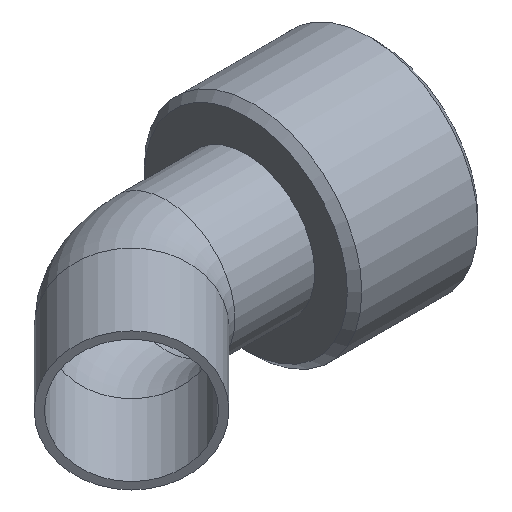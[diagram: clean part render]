
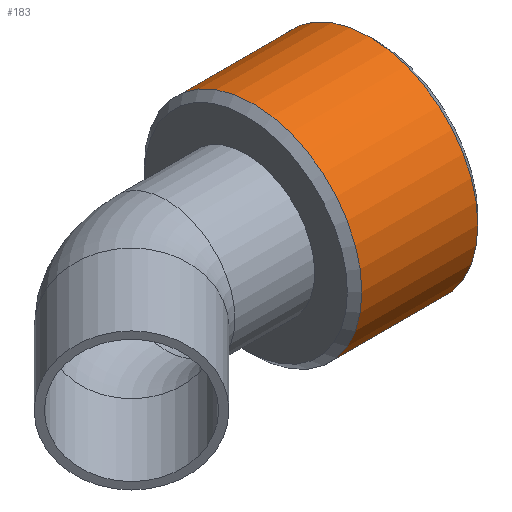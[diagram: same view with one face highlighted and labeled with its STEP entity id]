
A CAD part, isometric view. The second image highlights one B-rep face of the part: STEP entity #183.
In plain terms, the highlighted cylindrical face has radius 15 mm (diameter 30 mm), a full revolution.
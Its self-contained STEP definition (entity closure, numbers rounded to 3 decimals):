
#183 = ADVANCED_FACE( '', ( #246, #247 ), #248, .T. );
#246 = FACE_OUTER_BOUND( '', #345, .T. );
#247 = FACE_OUTER_BOUND( '', #346, .T. );
#248 = CYLINDRICAL_SURFACE( '', #347, 15. );
#345 = EDGE_LOOP( '', ( #471 ) );
#346 = EDGE_LOOP( '', ( #472 ) );
#347 = AXIS2_PLACEMENT_3D( '', #473, #474, #475 );
#471 = ORIENTED_EDGE( '', *, *, #581, .T. );
#472 = ORIENTED_EDGE( '', *, *, #582, .F. );
#473 = CARTESIAN_POINT( '', ( 18., 0., 0. ) );
#474 = DIRECTION( '', ( -1., 0., 0. ) );
#475 = DIRECTION( '', ( 0., 0., -1. ) );
#581 = EDGE_CURVE( '', #630, #630, #631, .T. );
#582 = EDGE_CURVE( '', #632, #632, #633, .T. );
#630 = VERTEX_POINT( '', #694 );
#631 = CIRCLE( '', #695, 15. );
#632 = VERTEX_POINT( '', #696 );
#633 = CIRCLE( '', #697, 15. );
#694 = CARTESIAN_POINT( '', ( 1., 0., -15. ) );
#695 = AXIS2_PLACEMENT_3D( '', #774, #775, #776 );
#696 = CARTESIAN_POINT( '', ( 17., 0., -15. ) );
#697 = AXIS2_PLACEMENT_3D( '', #777, #778, #779 );
#774 = CARTESIAN_POINT( '', ( 1., 0., 0. ) );
#775 = DIRECTION( '', ( 1., 0., 0. ) );
#776 = DIRECTION( '', ( 0., 0., -1. ) );
#777 = CARTESIAN_POINT( '', ( 17., 0., 0. ) );
#778 = DIRECTION( '', ( 1., 0., 0. ) );
#779 = DIRECTION( '', ( 0., 0., -1. ) );
